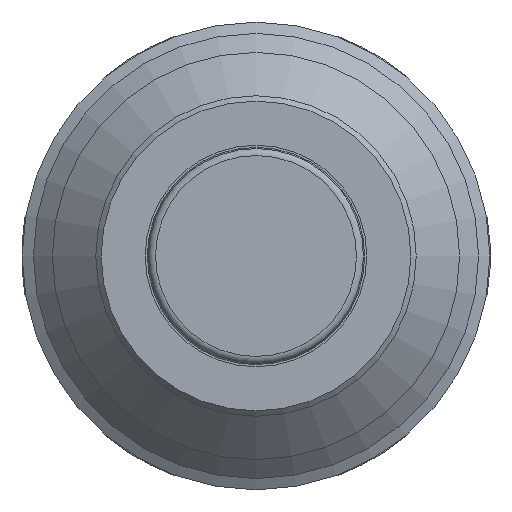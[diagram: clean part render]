
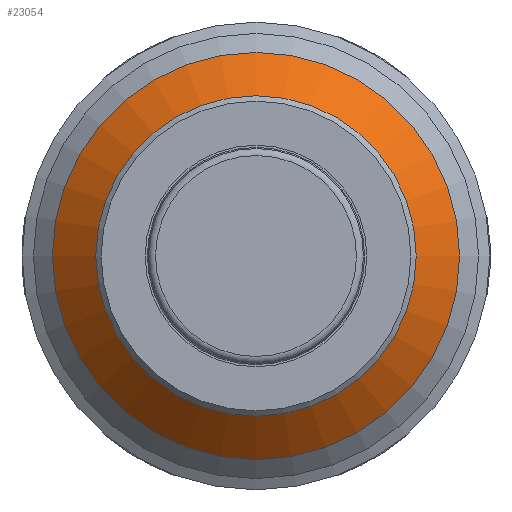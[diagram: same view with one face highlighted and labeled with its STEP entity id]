
A CAD part, front view. The second image highlights one B-rep face of the part: STEP entity #23054.
In plain terms, the highlighted conical face has half-angle 46.45 degrees and reference radius 17 mm.
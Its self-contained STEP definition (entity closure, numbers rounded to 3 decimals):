
#2264=CONICAL_SURFACE('',#24028,17.,0.811);
#3625=LINE('',#50108,#4993);
#4993=VECTOR('',#27280,17.);
#6338=FACE_OUTER_BOUND('',#7594,.T.);
#7594=EDGE_LOOP('',(#20266,#20267,#20268,#20269));
#8037=CIRCLE('',#23988,14.975);
#8062=CIRCLE('',#24029,19.025);
#10265=VERTEX_POINT('',#50033);
#10287=VERTEX_POINT('',#50106);
#13583=EDGE_CURVE('',#10265,#10265,#8037,.T.);
#13618=EDGE_CURVE('',#10287,#10287,#8062,.T.);
#13619=EDGE_CURVE('',#10287,#10265,#3625,.T.);
#20266=ORIENTED_EDGE('',*,*,#13618,.F.);
#20267=ORIENTED_EDGE('',*,*,#13619,.T.);
#20268=ORIENTED_EDGE('',*,*,#13583,.T.);
#20269=ORIENTED_EDGE('',*,*,#13619,.F.);
#23054=ADVANCED_FACE('',(#6338),#2264,.T.);
#23988=AXIS2_PLACEMENT_3D('',#50034,#27186,#27187);
#24028=AXIS2_PLACEMENT_3D('',#50105,#27276,#27277);
#24029=AXIS2_PLACEMENT_3D('',#50107,#27278,#27279);
#27186=DIRECTION('center_axis',(0.,1.,0.));
#27187=DIRECTION('ref_axis',(1.,0.,0.));
#27276=DIRECTION('center_axis',(0.,1.,0.));
#27277=DIRECTION('ref_axis',(-1.,0.,0.));
#27278=DIRECTION('center_axis',(0.,1.,0.));
#27279=DIRECTION('ref_axis',(1.,0.,0.));
#27280=DIRECTION('',(-0.725,-0.689,0.));
#50033=CARTESIAN_POINT('',(14.975,-12.,0.));
#50034=CARTESIAN_POINT('Origin',(0.,-12.,0.));
#50105=CARTESIAN_POINT('Origin',(0.,-10.075,0.));
#50106=CARTESIAN_POINT('',(19.025,-8.15,0.));
#50107=CARTESIAN_POINT('Origin',(0.,-8.15,0.));
#50108=CARTESIAN_POINT('',(17.,-10.075,0.));
